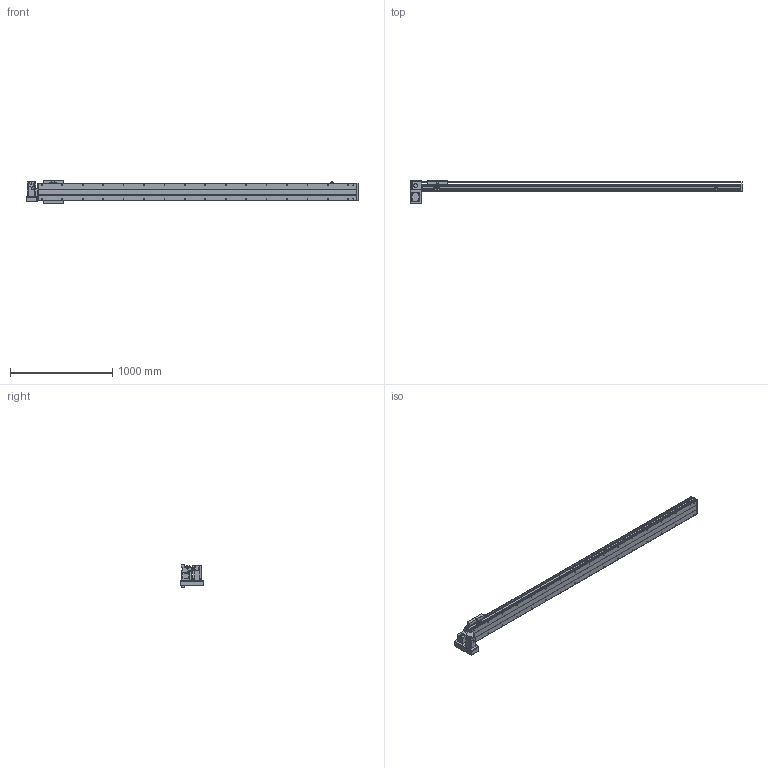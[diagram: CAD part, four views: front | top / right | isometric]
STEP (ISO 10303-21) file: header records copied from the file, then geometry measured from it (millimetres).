
FILE_DESCRIPTION(/* description */ ('STEP AP214'),/* implementation_level */ '2;1');
FILE_NAME(/* name */ 'PBS200-P40-S2750-LD-T75-C1-N(0)',/* time_stamp */ '2022-06-11T08:47:04+02:00',/* author */ ('License CC BY-ND 4.0'),/* organization */ ('CADENAS'),/* preprocessor_version */ 'ST-DEVELOPER v18.102',/* originating_system */ 'PARTsolutions',/* authorisation */ ' ');
FILE_SCHEMA (('AUTOMOTIVE_DESIGN {1 0 10303 214 3 1 1}'));
Length unit declared in the file: millimetre
Products named in the file (7): PBS200-P40-S2750-LD-T75-C1-N(0); PBS200_sensor; PBS200_plant; PBS200_sliser; T75-p1; PBS200T-LD_motors; PBS200-S2750()_body
Assembly tree (8 placements, depth 2):
  PBS200-P40-S2750-LD-T75-C1-N(0)
    PBS200_sensor  x3
    PBS200_plant
    PBS200_sliser
    T75-p1
    PBS200T-LD_motors
    PBS200-S2750()_body
Bounding box: 3250 x 230 x 221 mm (x, y, z)
Volume: 22164630.9 mm3; surface area: 3542712.8 mm2
Topology: 8 solids, 8 shells, 974 faces, 2464 edges, 1602 vertices
Faces by surface type: plane 592, cylinder 316, cone 66
Full cylindrical faces by diameter (mm): 2.459 x6, 3.242 x4, 4.5 x6, 4.917 x4, 5 x6, 6 x7, 6.6 x8, 6.647 x38, 8 x6, 10 x4, 12 x8, 38 x2, 40 x1, 70 x1
Entity records: 25661 total; most frequent: DIRECTION 4543, CARTESIAN_POINT 4354, ORIENTED_EDGE 4090, EDGE_CURVE 2045, AXIS2_PLACEMENT_3D 1615, VERTEX_POINT 1426, LINE 1313, VECTOR 1313
